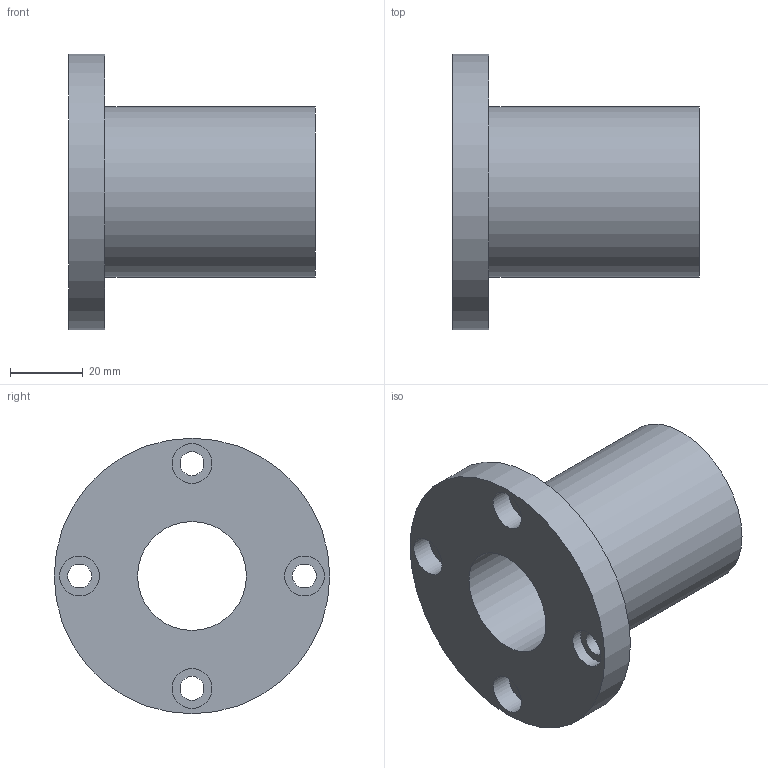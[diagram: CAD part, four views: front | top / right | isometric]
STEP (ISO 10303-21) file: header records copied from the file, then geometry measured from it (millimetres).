
FILE_DESCRIPTION( ( 'STEP AP203' ), '1' );
FILE_NAME( 'p:/temp/worker_7/temp/exporttempdir_3240_293_7QUFz/format_0/LMEF30UU.stp', '2020-05-07T03:20:29', ( 'License CC BY-ND 4.0' ), ( 'CADENAS' ), ' ', 'PARTsolutions', ' ' );
FILE_SCHEMA( ( 'CONFIG_CONTROL_DESIGN' ) );
Length unit declared in the file: millimetre
Products named in the file (1): _LMEF30UU
Bounding box: 68 x 76 x 76 mm (x, y, z)
Volume: 95255 mm3; surface area: 25871.1 mm2
Topology: 1 solids, 1 shells, 18 faces, 34 edges, 23 vertices
Faces by surface type: cylinder 11, plane 7
Full cylindrical faces by diameter (mm): 6.6 x4, 11 x4, 30 x1, 47 x1, 76 x1
Entity records: 468 total; most frequent: DIRECTION 82, CARTESIAN_POINT 63, EDGE_LOOP 44, ORIENTED_EDGE 44, AXIS2_PLACEMENT_3D 41, FACE_OUTER_BOUND 29, EDGE_CURVE 22, VERTEX_POINT 22
